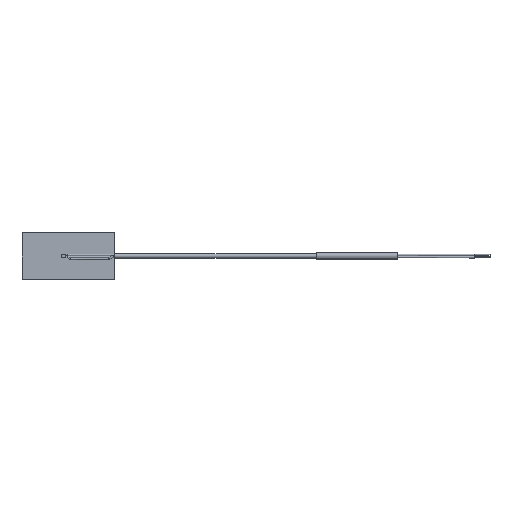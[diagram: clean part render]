
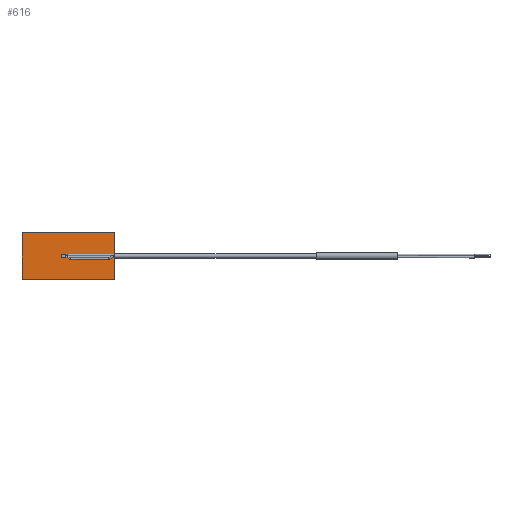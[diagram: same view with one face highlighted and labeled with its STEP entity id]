
A CAD part, top view. The second image highlights one B-rep face of the part: STEP entity #616.
In plain terms, the highlighted planar face has unit normal (0, 0, 1).
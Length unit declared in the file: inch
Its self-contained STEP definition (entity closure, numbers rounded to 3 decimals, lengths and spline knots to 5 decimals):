
#110=FACE_OUTER_BOUND('',#169,.T.);
#169=EDGE_LOOP('',(#432,#433,#434,#435));
#242=LINE('',#1023,#269);
#245=LINE('',#1029,#272);
#248=LINE('',#1035,#275);
#251=LINE('',#1039,#278);
#269=VECTOR('',#804,0.3937);
#272=VECTOR('',#809,0.3937);
#275=VECTOR('',#814,0.3937);
#278=VECTOR('',#819,0.3937);
#296=VERTEX_POINT('',#1020);
#297=VERTEX_POINT('',#1022);
#299=VERTEX_POINT('',#1028);
#301=VERTEX_POINT('',#1034);
#348=EDGE_CURVE('',#297,#296,#242,.T.);
#351=EDGE_CURVE('',#299,#297,#245,.T.);
#354=EDGE_CURVE('',#301,#299,#248,.T.);
#357=EDGE_CURVE('',#296,#301,#251,.T.);
#432=ORIENTED_EDGE('',*,*,#357,.T.);
#433=ORIENTED_EDGE('',*,*,#354,.T.);
#434=ORIENTED_EDGE('',*,*,#351,.T.);
#435=ORIENTED_EDGE('',*,*,#348,.T.);
#549=PLANE('',#709);
#616=ADVANCED_FACE('',(#110),#549,.T.);
#709=AXIS2_PLACEMENT_3D('',#1041,#822,#823);
#804=DIRECTION('',(0.,-1.,0.));
#809=DIRECTION('',(-1.,0.,0.));
#814=DIRECTION('',(0.,1.,0.));
#819=DIRECTION('',(1.,0.,0.));
#822=DIRECTION('center_axis',(0.,0.,1.));
#823=DIRECTION('ref_axis',(1.,0.,0.));
#1020=CARTESIAN_POINT('',(-2.,0.,0.0035));
#1022=CARTESIAN_POINT('',(-2.,1.,0.0035));
#1023=CARTESIAN_POINT('',(-2.,0.,0.0035));
#1028=CARTESIAN_POINT('',(0.,1.,0.0035));
#1029=CARTESIAN_POINT('',(-2.,1.,0.0035));
#1034=CARTESIAN_POINT('',(0.,0.,0.0035));
#1035=CARTESIAN_POINT('',(0.,1.,0.0035));
#1039=CARTESIAN_POINT('',(0.,0.,0.0035));
#1041=CARTESIAN_POINT('Origin',(-1.,0.5,0.0035));
